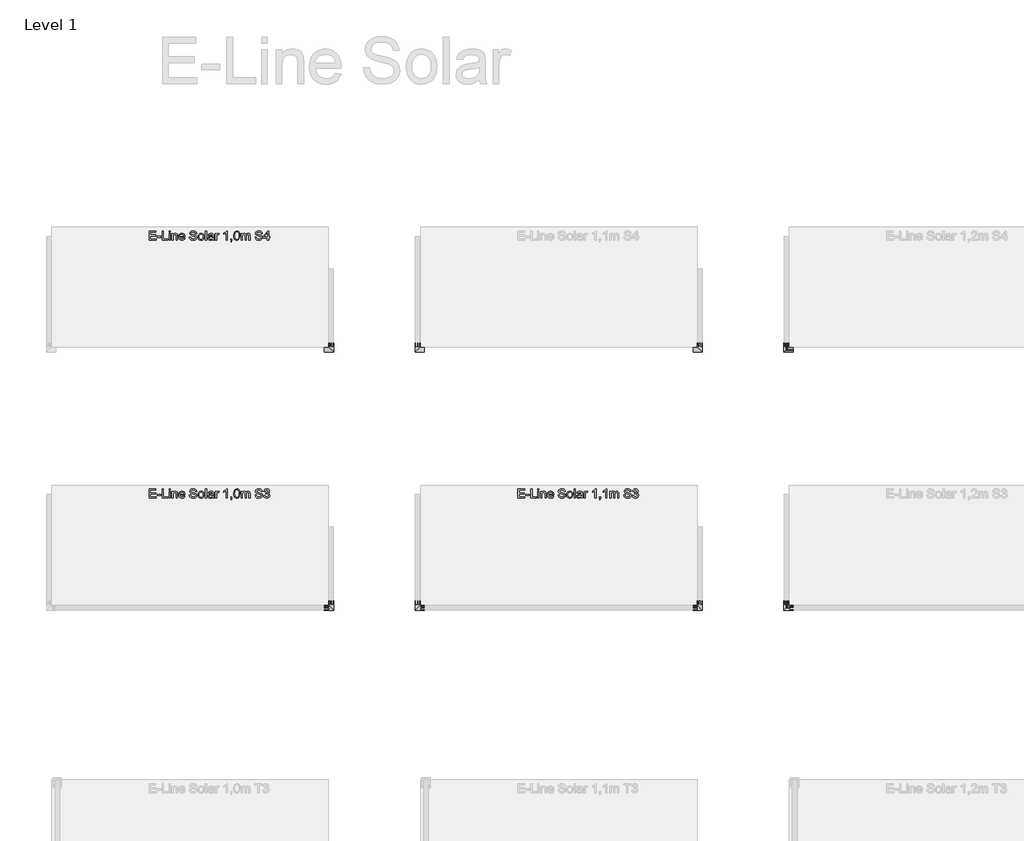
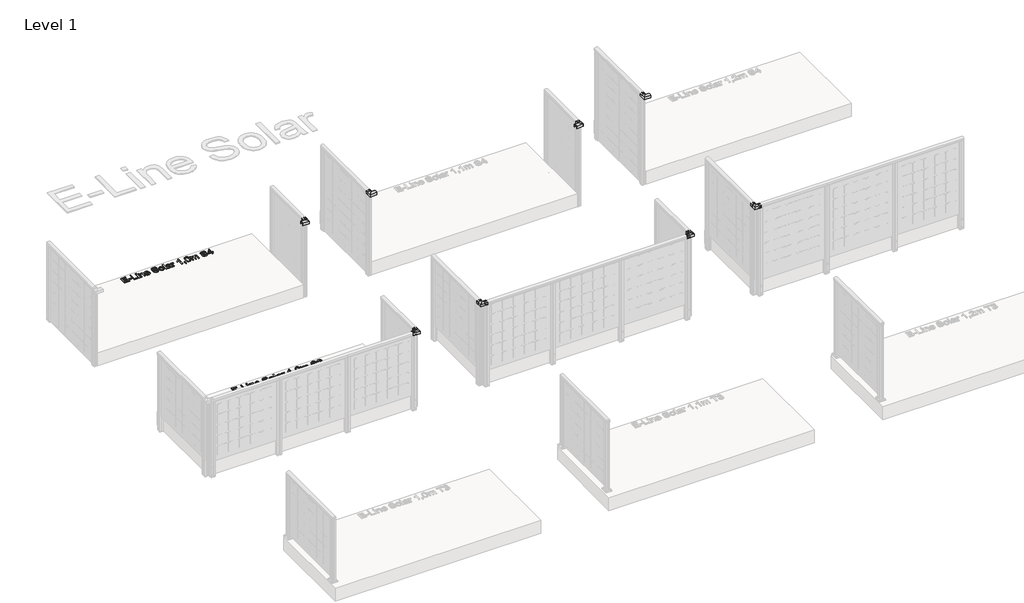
# One storey, part 63 of 66: 11 proxies.
"""IFC4 building model written with IfcOpenShell, lengths in millimetres."""

from ifc_helpers import new_model, si_unit, origin, origin_with_axes, place, context, project, spatial, polyline, outline, extrude, transform, mapped, element, save
from components import generic_models_029e0633, generic_models_b718ed85

model = new_model("IFC4")

# Units and contexts
model_context = context("Model", 3, world=origin())
ifc_project = project(units=[si_unit("LENGTHUNIT", "METRE", prefix="MILLI")], contexts=[model_context])

# Site, building, storey
site = spatial("IfcSite", under=ifc_project)
building = spatial("IfcBuilding", under=site)
storey = spatial("IfcBuildingStorey", under=building, Name="Level 1", Elevation=0.0)

# Proxies
placement = place(None, origin())
generic_models_shape = generic_models_029e0633(model_context)
element("IfcBuildingElementProxy", 1, Name="Innore top rail 51x43 corner element : Innore top rail 51x43 element", ObjectType="Innore top rail 51x43 corner element : Innore top rail 51x43 element", at=placement, inside=storey, context=model_context, shape_type="MappedRepresentation", body=[
    mapped(generic_models_shape, transform((19266.5256066, 2988.9093698, 1100.0), x_axis=(0.0, -1.0, 0.0), y_axis=(1.0, 0.0, 0.0), z_axis=(0.0, 0.0, 1.0))),
])
element("IfcBuildingElementProxy", 2, Name="Innore top rail 51x43 corner element : Innore top rail 51x43 element", ObjectType="Innore top rail 51x43 corner element : Innore top rail 51x43 element", at=placement, inside=storey, context=model_context, shape_type="MappedRepresentation", body=[
    mapped(generic_models_shape, transform((19266.5256066, 188.9093698, 1100.0), x_axis=(0.0, -1.0, 0.0), y_axis=(1.0, 0.0, 0.0), z_axis=(0.0, 0.0, 1.0))),
])
element("IfcBuildingElementProxy", 3, Name="Innore top rail 51x43 corner element : Innore top rail 51x43 element", ObjectType="Innore top rail 51x43 corner element : Innore top rail 51x43 element", at=placement, inside=storey, context=model_context, shape_type="MappedRepresentation", body=[
    mapped(generic_models_shape, transform((23266.5256066, 2988.9093698, 1200.0), x_axis=(0.0, -1.0, 0.0), y_axis=(1.0, 0.0, 0.0), z_axis=(0.0, 0.0, 1.0))),
])
element("IfcBuildingElementProxy", 4, Name="Innore top rail 51x43 corner element : Innore top rail 51x43 element", ObjectType="Innore top rail 51x43 corner element : Innore top rail 51x43 element", at=placement, inside=storey, context=model_context, shape_type="MappedRepresentation", body=[
    mapped(generic_models_shape, transform((23266.5256066, 188.9093698, 1200.0), x_axis=(0.0, -1.0, 0.0), y_axis=(1.0, 0.0, 0.0), z_axis=(0.0, 0.0, 1.0))),
])
generic_models_2_shape = generic_models_b718ed85(model_context)
element("IfcBuildingElementProxy", 5, Name="Innore top rail 51x43 corner element : Innore top rail 51x43 element", ObjectType="Innore top rail 51x43 corner element : Innore top rail 51x43 element", at=placement, inside=storey, context=model_context, shape_type="MappedRepresentation", body=[
    mapped(generic_models_2_shape, transform((18326.5270144, 2988.9093698, 1000.0), x_axis=(0.0, -1.0, 0.0), y_axis=(1.0, 0.0, 0.0), z_axis=(0.0, 0.0, 1.0))),
])
element("IfcBuildingElementProxy", 6, Name="Innore top rail 51x43 corner element : Innore top rail 51x43 element", ObjectType="Innore top rail 51x43 corner element : Innore top rail 51x43 element", at=placement, inside=storey, context=model_context, shape_type="MappedRepresentation", body=[
    mapped(generic_models_2_shape, transform((18326.5270144, 188.9093698, 1000.0), x_axis=(0.0, -1.0, 0.0), y_axis=(1.0, 0.0, 0.0), z_axis=(0.0, 0.0, 1.0))),
])
element("IfcBuildingElementProxy", 7, Name="Innore top rail 51x43 corner element : Innore top rail 51x43 element", ObjectType="Innore top rail 51x43 corner element : Innore top rail 51x43 element", at=placement, inside=storey, context=model_context, shape_type="MappedRepresentation", body=[
    mapped(generic_models_2_shape, transform((22326.5270144, 2988.9093698, 1100.0), x_axis=(0.0, -1.0, 0.0), y_axis=(1.0, 0.0, 0.0), z_axis=(0.0, 0.0, 1.0))),
])
element("IfcBuildingElementProxy", 8, Name="Innore top rail 51x43 corner element : Innore top rail 51x43 element", ObjectType="Innore top rail 51x43 corner element : Innore top rail 51x43 element", at=placement, inside=storey, context=model_context, shape_type="MappedRepresentation", body=[
    mapped(generic_models_2_shape, transform((22326.5270144, 188.9093698, 1100.0), x_axis=(0.0, -1.0, 0.0), y_axis=(1.0, 0.0, 0.0), z_axis=(0.0, 0.0, 1.0))),
])
element("IfcBuildingElementProxy", 9, Name="100mm Arial", ObjectType="100mm Arial", at=placement, inside=storey, context=model_context, shape_type="SweptSolid", body=[
    extrude(outline(polyline([(16354.036482, 1378.8815979), (16354.036482, 1479.3379081), (16426.2394549, 1479.3379081), (16426.2394549, 1466.7808693), (16366.5935207, 1466.7808693), (16366.5935207, 1436.9579022), (16423.1001952, 1436.9579022), (16423.1001952, 1424.4008635), (16366.5935207, 1424.4008635), (16366.5935207, 1391.4386367), (16427.8090847, 1391.4386367), (16427.8090847, 1378.8815979), (16354.036482, 1378.8815979)])), origin_with_axes(), (0.0, 0.0, 1.0), 10.0),
    extrude(outline(polyline([(16438.7964936, 1408.704565), (16438.7964936, 1421.2616038), (16478.0372398, 1421.2616038), (16478.0372398, 1408.704565), (16438.7964936, 1408.704565)])), origin_with_axes(), (0.0, 0.0, 1.0), 10.0),
    extrude(outline(polyline([(16493.7335383, 1378.8815979), (16493.7335383, 1479.3379081), (16506.290577, 1479.3379081), (16506.290577, 1391.4386367), (16556.5187321, 1391.4386367), (16556.5187321, 1378.8815979), (16493.7335383, 1378.8815979)])), origin_with_axes(), (0.0, 0.0, 1.0), 10.0),
    extrude(outline(polyline([(16569.0757709, 1466.7808693), (16569.0757709, 1479.3379081), (16581.6328096, 1479.3379081), (16581.6328096, 1466.7808693), (16569.0757709, 1466.7808693)])), origin_with_axes(), (0.0, 0.0, 1.0), 10.0),
    extrude(outline(polyline([(16569.0757709, 1378.8815979), (16569.0757709, 1452.6542007), (16581.6328096, 1452.6542007), (16581.6328096, 1378.8815979), (16569.0757709, 1378.8815979)])), origin_with_axes(), (0.0, 0.0, 1.0), 10.0),
    extrude(outline(polyline([(16600.4683678, 1378.8815979), (16600.4683678, 1452.6542007), (16613.0254066, 1452.6542007), (16613.0254066, 1442.3535048), (16622.6271266, 1451.2562491), (16635.7359884, 1454.2238305), (16647.5940514, 1451.8325976), (16655.6874553, 1445.5540782), (16659.4521144, 1436.3202401), (16660.1143019, 1424.1801343), (16660.1143019, 1378.8815979), (16647.5572632, 1378.8815979), (16647.5572632, 1422.4878771), (16646.1102607, 1433.5979133), (16640.9967009, 1439.4717625), (16632.3759995, 1441.6667918), (16618.752103, 1436.737173), (16614.4570807, 1429.594131), (16613.0254066, 1418.0242422), (16613.0254066, 1378.8815979), (16600.4683678, 1378.8815979)])), origin_with_axes(), (0.0, 0.0, 1.0), 10.0),
    extrude(outline(polyline([(16729.0308624, 1400.8564158), (16741.3426465, 1399.2867859), (16736.9066028, 1390.0100283), (16729.82794, 1383.0754527), (16720.2660738, 1378.7528392), (16708.3804197, 1377.3119681), (16693.6467458, 1379.7982372), (16682.309849, 1387.2570447), (16675.0809678, 1399.2040125), (16672.6713407, 1415.1547626), (16675.1054932, 1431.6420074), (16682.4079508, 1443.9721856), (16693.5915635, 1451.6609193), (16707.6691812, 1454.2238305), (16721.3084062, 1451.6670507), (16732.2069103, 1443.9967111), (16739.353018, 1431.6910583), (16741.7350539, 1415.228339), (16741.6614775, 1411.8438247), (16685.2283795, 1411.8438247), (16687.4019489, 1402.4444397), (16692.4511293, 1395.5343896), (16699.7382585, 1391.2853525), (16708.6256744, 1389.8690068), (16720.9374585, 1392.4932317), (16729.0308624, 1400.8564158)]), holes=[polyline([(16685.2283795, 1424.4008635), (16729.1780152, 1424.4008635), (16724.1502946, 1435.7806798), (16716.8294429, 1440.1952638), (16707.6201303, 1441.6667918), (16692.1568237, 1436.970165), (16687.2915843, 1431.4795262), (16685.2283795, 1424.4008635)])]), origin_with_axes(), (0.0, 0.0, 1.0), 10.0),
    extrude(outline(polyline([(16790.3935792, 1413.4134545), (16802.9506179, 1413.4134545), (16806.9973199, 1400.844153), (16816.8810828, 1392.8979019), (16831.9397192, 1389.8690068), (16845.0608437, 1392.1621379), (16853.5343923, 1398.4651828), (16856.3180327, 1406.8896805), (16854.2333681, 1414.725567), (16845.6985058, 1420.4277379), (16827.4147706, 1425.2224666), (16807.7330839, 1431.4151468), (16797.0522433, 1440.7593495), (16793.5328389, 1453.2428119), (16797.8861091, 1467.4553196), (16810.6025634, 1477.4862354), (16829.2173924, 1480.9075379), (16849.0830201, 1477.3268198), (16862.326772, 1466.8053948), (16867.3054416, 1451.0845708), (16854.7484029, 1451.0845708), (16852.443009, 1458.5771008), (16847.6360176, 1463.9849661), (16829.7079017, 1468.3504991), (16811.7307349, 1464.0340171), (16806.0898776, 1453.6106939), (16810.0875286, 1444.9041533), (16830.5908185, 1437.8898699), (16852.810891, 1431.5868251), (16864.9632596, 1421.4087566), (16868.8750715, 1407.2085115), (16864.3746484, 1392.1866634), (16851.4252022, 1381.22378), (16832.4302285, 1377.3119681), (16810.0016895, 1381.5303483), (16795.8137072, 1394.2345399), (16790.3935792, 1413.4134545)])), origin_with_axes(), (0.0, 0.0, 1.0), 10.0),
    extrude(outline(polyline([(16883.0017401, 1415.7678993), (16885.7179355, 1433.5549938), (16893.8665217, 1446.0568502), (16903.9342256, 1452.1820855), (16915.9884923, 1454.2238305), (16929.1801275, 1451.7375614), (16939.716881, 1444.2787539), (16946.6238655, 1432.4360194), (16948.9261936, 1416.7979689), (16944.8549662, 1394.455269), (16932.9969032, 1381.8123911), (16915.9884923, 1377.3119681), (16902.6374416, 1379.7890402), (16892.1129508, 1387.2202565), (16885.2795428, 1399.3113114), (16883.0017401, 1415.7678993)]), holes=[polyline([(16895.5587789, 1415.7924248), (16897.0119127, 1404.4279368), (16901.3713144, 1396.3314672), (16907.9318766, 1391.4846219), (16915.9884923, 1389.8690068), (16924.0083198, 1391.493819), (16930.5566193, 1396.3682554), (16934.916021, 1404.5720239), (16936.3691549, 1416.1848322), (16934.9068239, 1427.2182264), (16930.5198311, 1435.2043314), (16923.9623346, 1440.0511767), (16915.9884923, 1441.6667918), (16907.9318766, 1440.057308), (16901.3713144, 1435.2288568), (16897.0119127, 1427.1507814), (16895.5587789, 1415.7924248)])]), origin_with_axes(), (0.0, 0.0, 1.0), 10.0),
    extrude(outline(polyline([(16963.0528622, 1378.8815979), (16963.0528622, 1479.3379081), (16975.609901, 1479.3379081), (16975.609901, 1378.8815979), (16963.0528622, 1378.8815979)])), origin_with_axes(), (0.0, 0.0, 1.0), 10.0),
    extrude(outline(polyline([(17041.5343545, 1388.299377), (17029.3574605, 1379.7890402), (17015.9052422, 1377.3119681), (17005.4114083, 1378.8018902), (16997.670558, 1383.2716564), (16992.8972891, 1390.0590792), (16991.3061995, 1398.501971), (16993.7096952, 1408.4347849), (17000.0250028, 1415.645272), (17008.8173824, 1419.7655503), (17019.682164, 1421.6540112), (17041.4607781, 1425.9704933), (17041.5343545, 1428.7663965), (17038.0762638, 1438.0370227), (17024.1948498, 1441.6667918), (17011.4906583, 1439.2510333), (17005.4328681, 1430.6793828), (16992.8758293, 1432.2490127), (16998.3082201, 1444.5117459), (17009.2465781, 1451.6977075), (17025.8135306, 1454.2238305), (17041.0315825, 1451.9920131), (17049.6277584, 1446.387944), (17053.4782567, 1437.8653445), (17054.0913933, 1426.8779356), (17054.0913933, 1411.2552135), (17054.7290554, 1389.4398112), (17057.230653, 1378.8815979), (17044.6736142, 1378.8815979), (17041.5343545, 1388.299377)]), holes=[polyline([(17041.5343545, 1413.4134545), (17021.2763193, 1409.5629563), (17010.4728514, 1407.5273426), (17005.5800209, 1404.2164047), (17003.8632382, 1399.3848878), (17007.6033719, 1392.5913336), (17018.578518, 1389.8690068), (17031.2827096, 1392.8733765), (17039.4742154, 1400.1451772), (17041.4607781, 1409.8572619), (17041.5343545, 1413.4134545)])]), origin_with_axes(), (0.0, 0.0, 1.0), 10.0),
    extrude(outline(polyline([(17071.3573216, 1378.8815979), (17071.3573216, 1452.6542007), (17082.3447305, 1452.6542007), (17082.3447305, 1441.7403682), (17090.1438288, 1451.7958094), (17097.9919781, 1454.2238305), (17110.5980678, 1450.3488068), (17106.404213, 1439.0916178), (17097.5750451, 1441.6667918), (17090.4749226, 1439.1897197), (17085.9499741, 1432.3225891), (17083.9143604, 1417.6563602), (17083.9143604, 1378.8815979), (17071.3573216, 1378.8815979)])), origin_with_axes(), (0.0, 0.0, 1.0), 10.0),
    extrude(outline(polyline([(17201.6365988, 1378.8815979), (17189.0795601, 1378.8815979), (17189.0795601, 1457.1668865), (17177.1847089, 1448.6933379), (17163.9654825, 1442.3535048), (17163.9654825, 1454.2238305), (17182.371845, 1465.9715289), (17193.5431949, 1479.3379081), (17201.6365988, 1479.3379081), (17201.6365988, 1378.8815979)])), origin_with_axes(), (0.0, 0.0, 1.0), 10.0),
    extrude(outline(polyline([(17237.7380853, 1378.8815979), (17237.7380853, 1391.4386367), (17250.2951241, 1391.4386367), (17250.2951241, 1378.8815979), (17248.0387812, 1366.0425163), (17240.877345, 1358.4764099), (17237.7380853, 1363.1852995), (17242.348873, 1368.6054275), (17243.9920792, 1378.8815979), (17237.7380853, 1378.8815979)])), origin_with_axes(), (0.0, 0.0, 1.0), 10.0),
    extrude(outline(polyline([(17270.7003121, 1428.3004126), (17274.3913948, 1457.2036747), (17285.3542782, 1473.8687291), (17303.6625388, 1479.3379081), (17318.3287677, 1476.1005465), (17328.4577853, 1466.7686066), (17334.3438972, 1451.906174), (17336.6247656, 1428.3004126), (17332.9704711, 1399.5197778), (17322.0443759, 1382.8179353), (17313.8130162, 1378.6884599), (17303.6625388, 1377.3119681), (17290.6149907, 1379.703201), (17280.7067023, 1386.8768999), (17273.2019096, 1403.8669168), (17270.7003121, 1428.3004126)]), holes=[polyline([(17283.2573508, 1428.3249381), (17284.7288788, 1408.5727406), (17289.1434628, 1397.1408076), (17295.7162877, 1391.686957), (17303.6625388, 1389.8690068), (17311.6087899, 1391.6930884), (17318.1816149, 1397.1653331), (17322.5961989, 1408.6033974), (17324.0677268, 1428.3249381), (17322.6452498, 1447.6326115), (17318.3778186, 1459.1534493), (17311.8172564, 1464.8740143), (17303.515386, 1466.7808693), (17295.6549741, 1465.1008749), (17289.3396665, 1460.0608915), (17284.7779298, 1447.8226838), (17283.2573508, 1428.3249381)])]), origin_with_axes(), (0.0, 0.0, 1.0), 10.0),
    extrude(outline(polyline([(17350.7514342, 1378.8815979), (17350.7514342, 1452.6542007), (17363.308473, 1452.6542007), (17363.308473, 1440.5140948), (17371.9414371, 1450.4591714), (17384.2286958, 1454.2238305), (17396.81026, 1450.385595), (17403.7264415, 1439.6311781), (17413.5243653, 1450.5756674), (17425.8974631, 1454.2238305), (17435.336702, 1452.7063173), (17442.3172628, 1448.1537776), (17446.6306792, 1440.4435841), (17448.0684847, 1429.4531095), (17448.0684847, 1378.8815979), (17435.5114459, 1378.8815979), (17435.5114459, 1424.0575069), (17434.3464863, 1434.5421438), (17430.128106, 1439.7047545), (17422.9544071, 1441.6667918), (17410.6058348, 1436.6390712), (17406.9178178, 1430.096903), (17405.6884788, 1420.5258398), (17405.6884788, 1378.8815979), (17393.1314401, 1378.8815979), (17393.1314401, 1425.4554585), (17390.2251723, 1437.6200898), (17380.6970286, 1441.6667918), (17371.4018769, 1438.9689905), (17365.2214594, 1431.0717903), (17363.308473, 1416.0867304), (17363.308473, 1378.8815979), (17350.7514342, 1378.8815979)])), origin_with_axes(), (0.0, 0.0, 1.0), 10.0),
    extrude(outline(polyline([(17503.0055293, 1413.4134545), (17515.5625681, 1413.4134545), (17519.60927, 1400.844153), (17529.4930329, 1392.8979019), (17544.5516693, 1389.8690068), (17557.6727938, 1392.1621379), (17566.1463424, 1398.4651828), (17568.9299828, 1406.8896805), (17566.8453182, 1414.725567), (17558.3104559, 1420.4277379), (17540.0267207, 1425.2224666), (17520.345034, 1431.4151468), (17509.6641934, 1440.7593495), (17506.144789, 1453.2428119), (17510.4980593, 1467.4553196), (17523.2145136, 1477.4862354), (17541.8293425, 1480.9075379), (17561.6949703, 1477.3268198), (17574.9387221, 1466.8053948), (17579.9173917, 1451.0845708), (17567.360353, 1451.0845708), (17565.0549591, 1458.5771008), (17560.2479677, 1463.9849661), (17542.3198518, 1468.3504991), (17524.342685, 1464.0340171), (17518.7018278, 1453.6106939), (17522.6994788, 1444.9041533), (17543.2027686, 1437.8898699), (17565.4228411, 1431.5868251), (17577.5752097, 1421.4087566), (17581.4870216, 1407.2085115), (17576.9865985, 1392.1866634), (17564.0371523, 1381.22378), (17545.0421786, 1377.3119681), (17522.6136396, 1381.5303483), (17508.4256574, 1394.2345399), (17503.0055293, 1413.4134545)])), origin_with_axes(), (0.0, 0.0, 1.0), 10.0),
    extrude(outline(polyline([(17595.6136902, 1405.5653053), (17608.170729, 1407.1349351), (17615.0991732, 1393.9157088), (17628.0608822, 1389.8690068), (17636.6693209, 1391.2608271), (17643.3157223, 1395.4362877), (17648.981105, 1409.2195998), (17643.3647732, 1422.2058342), (17629.0909518, 1427.3439194), (17620.2863094, 1425.9704933), (17621.6842609, 1438.5275321), (17623.6953492, 1438.3803793), (17637.9446451, 1441.9856228), (17642.6903229, 1446.5596223), (17644.2722154, 1453.0711336), (17639.6859532, 1462.8935829), (17627.8646785, 1466.7808693), (17615.8962509, 1462.8567947), (17609.7403588, 1451.0845708), (17597.1833201, 1452.6542007), (17600.8805341, 1463.9297838), (17607.4594905, 1472.3481502), (17616.4603366, 1477.5904686), (17627.4232201, 1479.3379081), (17642.5676955, 1475.89208), (17653.162697, 1466.474301), (17656.8292542, 1453.8068976), (17653.346638, 1442.2308775), (17643.0459421, 1433.9167444), (17656.7311523, 1425.3328312), (17661.5381437, 1408.9988706), (17659.134648, 1396.7606629), (17651.9241609, 1386.5335434), (17641.0409852, 1379.6173619), (17627.6194238, 1377.3119681), (17615.4793179, 1379.2801367), (17605.595555, 1385.1846428), (17598.7222931, 1394.2161458), (17595.6136902, 1405.5653053)])), origin_with_axes(), (0.0, 0.0, 1.0), 10.0),
])
element("IfcBuildingElementProxy", 10, Name="100mm Arial", ObjectType="100mm Arial", at=placement, inside=storey, context=model_context, shape_type="SweptSolid", body=[
    extrude(outline(polyline([(16354.036482, 4178.8815979), (16354.036482, 4279.3379081), (16426.2394549, 4279.3379081), (16426.2394549, 4266.7808693), (16366.5935207, 4266.7808693), (16366.5935207, 4236.9579022), (16423.1001952, 4236.9579022), (16423.1001952, 4224.4008635), (16366.5935207, 4224.4008635), (16366.5935207, 4191.4386367), (16427.8090847, 4191.4386367), (16427.8090847, 4178.8815979), (16354.036482, 4178.8815979)])), origin_with_axes(), (0.0, 0.0, 1.0), 10.0),
    extrude(outline(polyline([(16438.7964936, 4208.704565), (16438.7964936, 4221.2616038), (16478.0372398, 4221.2616038), (16478.0372398, 4208.704565), (16438.7964936, 4208.704565)])), origin_with_axes(), (0.0, 0.0, 1.0), 10.0),
    extrude(outline(polyline([(16493.7335383, 4178.8815979), (16493.7335383, 4279.3379081), (16506.290577, 4279.3379081), (16506.290577, 4191.4386367), (16556.5187321, 4191.4386367), (16556.5187321, 4178.8815979), (16493.7335383, 4178.8815979)])), origin_with_axes(), (0.0, 0.0, 1.0), 10.0),
    extrude(outline(polyline([(16569.0757709, 4266.7808693), (16569.0757709, 4279.3379081), (16581.6328096, 4279.3379081), (16581.6328096, 4266.7808693), (16569.0757709, 4266.7808693)])), origin_with_axes(), (0.0, 0.0, 1.0), 10.0),
    extrude(outline(polyline([(16569.0757709, 4178.8815979), (16569.0757709, 4252.6542007), (16581.6328096, 4252.6542007), (16581.6328096, 4178.8815979), (16569.0757709, 4178.8815979)])), origin_with_axes(), (0.0, 0.0, 1.0), 10.0),
    extrude(outline(polyline([(16600.4683678, 4178.8815979), (16600.4683678, 4252.6542007), (16613.0254066, 4252.6542007), (16613.0254066, 4242.3535048), (16622.6271266, 4251.2562491), (16635.7359884, 4254.2238305), (16647.5940514, 4251.8325976), (16655.6874553, 4245.5540782), (16659.4521144, 4236.3202401), (16660.1143019, 4224.1801343), (16660.1143019, 4178.8815979), (16647.5572632, 4178.8815979), (16647.5572632, 4222.4878771), (16646.1102607, 4233.5979133), (16640.9967009, 4239.4717625), (16632.3759995, 4241.6667918), (16618.752103, 4236.737173), (16614.4570807, 4229.594131), (16613.0254066, 4218.0242422), (16613.0254066, 4178.8815979), (16600.4683678, 4178.8815979)])), origin_with_axes(), (0.0, 0.0, 1.0), 10.0),
    extrude(outline(polyline([(16729.0308624, 4200.8564158), (16741.3426465, 4199.2867859), (16736.9066028, 4190.0100283), (16729.82794, 4183.0754527), (16720.2660738, 4178.7528392), (16708.3804197, 4177.3119681), (16693.6467458, 4179.7982372), (16682.309849, 4187.2570447), (16675.0809678, 4199.2040125), (16672.6713407, 4215.1547626), (16675.1054932, 4231.6420074), (16682.4079508, 4243.9721856), (16693.5915635, 4251.6609193), (16707.6691812, 4254.2238305), (16721.3084062, 4251.6670507), (16732.2069103, 4243.9967111), (16739.353018, 4231.6910583), (16741.7350539, 4215.228339), (16741.6614775, 4211.8438247), (16685.2283795, 4211.8438247), (16687.4019489, 4202.4444397), (16692.4511293, 4195.5343896), (16699.7382585, 4191.2853525), (16708.6256744, 4189.8690068), (16720.9374585, 4192.4932317), (16729.0308624, 4200.8564158)]), holes=[polyline([(16685.2283795, 4224.4008635), (16729.1780152, 4224.4008635), (16724.1502946, 4235.7806798), (16716.8294429, 4240.1952638), (16707.6201303, 4241.6667918), (16692.1568237, 4236.970165), (16687.2915843, 4231.4795262), (16685.2283795, 4224.4008635)])]), origin_with_axes(), (0.0, 0.0, 1.0), 10.0),
    extrude(outline(polyline([(16790.3935792, 4213.4134545), (16802.9506179, 4213.4134545), (16806.9973199, 4200.844153), (16816.8810828, 4192.8979019), (16831.9397192, 4189.8690068), (16845.0608437, 4192.1621379), (16853.5343923, 4198.4651828), (16856.3180327, 4206.8896805), (16854.2333681, 4214.725567), (16845.6985058, 4220.4277379), (16827.4147706, 4225.2224666), (16807.7330839, 4231.4151468), (16797.0522433, 4240.7593495), (16793.5328389, 4253.2428119), (16797.8861091, 4267.4553196), (16810.6025634, 4277.4862354), (16829.2173924, 4280.9075379), (16849.0830201, 4277.3268198), (16862.326772, 4266.8053948), (16867.3054416, 4251.0845708), (16854.7484029, 4251.0845708), (16852.443009, 4258.5771008), (16847.6360176, 4263.9849661), (16829.7079017, 4268.3504991), (16811.7307349, 4264.0340171), (16806.0898776, 4253.6106939), (16810.0875286, 4244.9041533), (16830.5908185, 4237.8898699), (16852.810891, 4231.5868251), (16864.9632596, 4221.4087566), (16868.8750715, 4207.2085115), (16864.3746484, 4192.1866634), (16851.4252022, 4181.22378), (16832.4302285, 4177.3119681), (16810.0016895, 4181.5303483), (16795.8137072, 4194.2345399), (16790.3935792, 4213.4134545)])), origin_with_axes(), (0.0, 0.0, 1.0), 10.0),
    extrude(outline(polyline([(16883.0017401, 4215.7678993), (16885.7179355, 4233.5549938), (16893.8665217, 4246.0568502), (16903.9342256, 4252.1820855), (16915.9884923, 4254.2238305), (16929.1801275, 4251.7375614), (16939.716881, 4244.2787539), (16946.6238655, 4232.4360194), (16948.9261936, 4216.7979689), (16944.8549662, 4194.455269), (16932.9969032, 4181.8123911), (16915.9884923, 4177.3119681), (16902.6374416, 4179.7890402), (16892.1129508, 4187.2202565), (16885.2795428, 4199.3113114), (16883.0017401, 4215.7678993)]), holes=[polyline([(16895.5587789, 4215.7924248), (16897.0119127, 4204.4279368), (16901.3713144, 4196.3314672), (16907.9318766, 4191.4846219), (16915.9884923, 4189.8690068), (16924.0083198, 4191.493819), (16930.5566193, 4196.3682554), (16934.916021, 4204.5720239), (16936.3691549, 4216.1848322), (16934.9068239, 4227.2182264), (16930.5198311, 4235.2043314), (16923.9623346, 4240.0511767), (16915.9884923, 4241.6667918), (16907.9318766, 4240.057308), (16901.3713144, 4235.2288568), (16897.0119127, 4227.1507814), (16895.5587789, 4215.7924248)])]), origin_with_axes(), (0.0, 0.0, 1.0), 10.0),
    extrude(outline(polyline([(16963.0528622, 4178.8815979), (16963.0528622, 4279.3379081), (16975.609901, 4279.3379081), (16975.609901, 4178.8815979), (16963.0528622, 4178.8815979)])), origin_with_axes(), (0.0, 0.0, 1.0), 10.0),
    extrude(outline(polyline([(17041.5343545, 4188.299377), (17029.3574605, 4179.7890402), (17015.9052422, 4177.3119681), (17005.4114083, 4178.8018902), (16997.670558, 4183.2716564), (16992.8972891, 4190.0590792), (16991.3061995, 4198.501971), (16993.7096952, 4208.4347849), (17000.0250028, 4215.645272), (17008.8173824, 4219.7655503), (17019.682164, 4221.6540112), (17041.4607781, 4225.9704933), (17041.5343545, 4228.7663965), (17038.0762638, 4238.0370227), (17024.1948498, 4241.6667918), (17011.4906583, 4239.2510333), (17005.4328681, 4230.6793828), (16992.8758293, 4232.2490127), (16998.3082201, 4244.5117459), (17009.2465781, 4251.6977075), (17025.8135306, 4254.2238305), (17041.0315825, 4251.9920131), (17049.6277584, 4246.387944), (17053.4782567, 4237.8653445), (17054.0913933, 4226.8779356), (17054.0913933, 4211.2552135), (17054.7290554, 4189.4398112), (17057.230653, 4178.8815979), (17044.6736142, 4178.8815979), (17041.5343545, 4188.299377)]), holes=[polyline([(17041.5343545, 4213.4134545), (17021.2763193, 4209.5629563), (17010.4728514, 4207.5273426), (17005.5800209, 4204.2164047), (17003.8632382, 4199.3848878), (17007.6033719, 4192.5913336), (17018.578518, 4189.8690068), (17031.2827096, 4192.8733765), (17039.4742154, 4200.1451772), (17041.4607781, 4209.8572619), (17041.5343545, 4213.4134545)])]), origin_with_axes(), (0.0, 0.0, 1.0), 10.0),
    extrude(outline(polyline([(17071.3573216, 4178.8815979), (17071.3573216, 4252.6542007), (17082.3447305, 4252.6542007), (17082.3447305, 4241.7403682), (17090.1438288, 4251.7958094), (17097.9919781, 4254.2238305), (17110.5980678, 4250.3488068), (17106.404213, 4239.0916178), (17097.5750451, 4241.6667918), (17090.4749226, 4239.1897197), (17085.9499741, 4232.3225891), (17083.9143604, 4217.6563602), (17083.9143604, 4178.8815979), (17071.3573216, 4178.8815979)])), origin_with_axes(), (0.0, 0.0, 1.0), 10.0),
    extrude(outline(polyline([(17201.6365988, 4178.8815979), (17189.0795601, 4178.8815979), (17189.0795601, 4257.1668865), (17177.1847089, 4248.6933379), (17163.9654825, 4242.3535048), (17163.9654825, 4254.2238305), (17182.371845, 4265.9715289), (17193.5431949, 4279.3379081), (17201.6365988, 4279.3379081), (17201.6365988, 4178.8815979)])), origin_with_axes(), (0.0, 0.0, 1.0), 10.0),
    extrude(outline(polyline([(17237.7380853, 4178.8815979), (17237.7380853, 4191.4386367), (17250.2951241, 4191.4386367), (17250.2951241, 4178.8815979), (17248.0387812, 4166.0425163), (17240.877345, 4158.4764099), (17237.7380853, 4163.1852995), (17242.348873, 4168.6054275), (17243.9920792, 4178.8815979), (17237.7380853, 4178.8815979)])), origin_with_axes(), (0.0, 0.0, 1.0), 10.0),
    extrude(outline(polyline([(17270.7003121, 4228.3004126), (17274.3913948, 4257.2036747), (17285.3542782, 4273.8687291), (17303.6625388, 4279.3379081), (17318.3287677, 4276.1005465), (17328.4577853, 4266.7686066), (17334.3438972, 4251.906174), (17336.6247656, 4228.3004126), (17332.9704711, 4199.5197778), (17322.0443759, 4182.8179353), (17313.8130162, 4178.6884599), (17303.6625388, 4177.3119681), (17290.6149907, 4179.703201), (17280.7067023, 4186.8768999), (17273.2019096, 4203.8669168), (17270.7003121, 4228.3004126)]), holes=[polyline([(17283.2573508, 4228.3249381), (17284.7288788, 4208.5727406), (17289.1434628, 4197.1408076), (17295.7162877, 4191.686957), (17303.6625388, 4189.8690068), (17311.6087899, 4191.6930884), (17318.1816149, 4197.1653331), (17322.5961989, 4208.6033974), (17324.0677268, 4228.3249381), (17322.6452498, 4247.6326115), (17318.3778186, 4259.1534493), (17311.8172564, 4264.8740143), (17303.515386, 4266.7808693), (17295.6549741, 4265.1008749), (17289.3396665, 4260.0608915), (17284.7779298, 4247.8226838), (17283.2573508, 4228.3249381)])]), origin_with_axes(), (0.0, 0.0, 1.0), 10.0),
    extrude(outline(polyline([(17350.7514342, 4178.8815979), (17350.7514342, 4252.6542007), (17363.308473, 4252.6542007), (17363.308473, 4240.5140948), (17371.9414371, 4250.4591714), (17384.2286958, 4254.2238305), (17396.81026, 4250.385595), (17403.7264415, 4239.6311781), (17413.5243653, 4250.5756674), (17425.8974631, 4254.2238305), (17435.336702, 4252.7063173), (17442.3172628, 4248.1537776), (17446.6306792, 4240.4435841), (17448.0684847, 4229.4531095), (17448.0684847, 4178.8815979), (17435.5114459, 4178.8815979), (17435.5114459, 4224.0575069), (17434.3464863, 4234.5421438), (17430.128106, 4239.7047545), (17422.9544071, 4241.6667918), (17410.6058348, 4236.6390712), (17406.9178178, 4230.096903), (17405.6884788, 4220.5258398), (17405.6884788, 4178.8815979), (17393.1314401, 4178.8815979), (17393.1314401, 4225.4554585), (17390.2251723, 4237.6200898), (17380.6970286, 4241.6667918), (17371.4018769, 4238.9689905), (17365.2214594, 4231.0717903), (17363.308473, 4216.0867304), (17363.308473, 4178.8815979), (17350.7514342, 4178.8815979)])), origin_with_axes(), (0.0, 0.0, 1.0), 10.0),
    extrude(outline(polyline([(17503.0055293, 4213.4134545), (17515.5625681, 4213.4134545), (17519.60927, 4200.844153), (17529.4930329, 4192.8979019), (17544.5516693, 4189.8690068), (17557.6727938, 4192.1621379), (17566.1463424, 4198.4651828), (17568.9299828, 4206.8896805), (17566.8453182, 4214.725567), (17558.3104559, 4220.4277379), (17540.0267207, 4225.2224666), (17520.345034, 4231.4151468), (17509.6641934, 4240.7593495), (17506.144789, 4253.2428119), (17510.4980593, 4267.4553196), (17523.2145136, 4277.4862354), (17541.8293425, 4280.9075379), (17561.6949703, 4277.3268198), (17574.9387221, 4266.8053948), (17579.9173917, 4251.0845708), (17567.360353, 4251.0845708), (17565.0549591, 4258.5771008), (17560.2479677, 4263.9849661), (17542.3198518, 4268.3504991), (17524.342685, 4264.0340171), (17518.7018278, 4253.6106939), (17522.6994788, 4244.9041533), (17543.2027686, 4237.8898699), (17565.4228411, 4231.5868251), (17577.5752097, 4221.4087566), (17581.4870216, 4207.2085115), (17576.9865985, 4192.1866634), (17564.0371523, 4181.22378), (17545.0421786, 4177.3119681), (17522.6136396, 4181.5303483), (17508.4256574, 4194.2345399), (17503.0055293, 4213.4134545)])), origin_with_axes(), (0.0, 0.0, 1.0), 10.0),
    extrude(outline(polyline([(17636.4240662, 4178.8815979), (17636.4240662, 4202.4260456), (17590.9048007, 4202.4260456), (17590.9048007, 4214.9830844), (17639.5633259, 4277.7682782), (17648.981105, 4277.7682782), (17648.981105, 4214.9830844), (17661.5381437, 4214.9830844), (17661.5381437, 4202.4260456), (17648.981105, 4202.4260456), (17648.981105, 4178.8815979), (17636.4240662, 4178.8815979)]), holes=[polyline([(17636.4240662, 4214.9830844), (17636.4240662, 4253.7823721), (17606.3558445, 4214.9830844), (17636.4240662, 4214.9830844)])]), origin_with_axes(), (0.0, 0.0, 1.0), 10.0),
])
element("IfcBuildingElementProxy", 11, Name="100mm Arial", ObjectType="100mm Arial", at=placement, inside=storey, context=model_context, shape_type="SweptSolid", body=[
    extrude(outline(polyline([(20354.036482, 1378.8815979), (20354.036482, 1479.3379081), (20426.2394549, 1479.3379081), (20426.2394549, 1466.7808693), (20366.5935207, 1466.7808693), (20366.5935207, 1436.9579022), (20423.1001952, 1436.9579022), (20423.1001952, 1424.4008635), (20366.5935207, 1424.4008635), (20366.5935207, 1391.4386367), (20427.8090847, 1391.4386367), (20427.8090847, 1378.8815979), (20354.036482, 1378.8815979)])), origin_with_axes(), (0.0, 0.0, 1.0), 10.0),
    extrude(outline(polyline([(20438.7964936, 1408.704565), (20438.7964936, 1421.2616038), (20478.0372398, 1421.2616038), (20478.0372398, 1408.704565), (20438.7964936, 1408.704565)])), origin_with_axes(), (0.0, 0.0, 1.0), 10.0),
    extrude(outline(polyline([(20493.7335383, 1378.8815979), (20493.7335383, 1479.3379081), (20506.290577, 1479.3379081), (20506.290577, 1391.4386367), (20556.5187321, 1391.4386367), (20556.5187321, 1378.8815979), (20493.7335383, 1378.8815979)])), origin_with_axes(), (0.0, 0.0, 1.0), 10.0),
    extrude(outline(polyline([(20569.0757709, 1466.7808693), (20569.0757709, 1479.3379081), (20581.6328096, 1479.3379081), (20581.6328096, 1466.7808693), (20569.0757709, 1466.7808693)])), origin_with_axes(), (0.0, 0.0, 1.0), 10.0),
    extrude(outline(polyline([(20569.0757709, 1378.8815979), (20569.0757709, 1452.6542007), (20581.6328096, 1452.6542007), (20581.6328096, 1378.8815979), (20569.0757709, 1378.8815979)])), origin_with_axes(), (0.0, 0.0, 1.0), 10.0),
    extrude(outline(polyline([(20600.4683678, 1378.8815979), (20600.4683678, 1452.6542007), (20613.0254066, 1452.6542007), (20613.0254066, 1442.3535048), (20622.6271266, 1451.2562491), (20635.7359884, 1454.2238305), (20647.5940514, 1451.8325976), (20655.6874553, 1445.5540782), (20659.4521144, 1436.3202401), (20660.1143019, 1424.1801343), (20660.1143019, 1378.8815979), (20647.5572632, 1378.8815979), (20647.5572632, 1422.4878771), (20646.1102607, 1433.5979133), (20640.9967009, 1439.4717625), (20632.3759995, 1441.6667918), (20618.752103, 1436.737173), (20614.4570807, 1429.594131), (20613.0254066, 1418.0242422), (20613.0254066, 1378.8815979), (20600.4683678, 1378.8815979)])), origin_with_axes(), (0.0, 0.0, 1.0), 10.0),
    extrude(outline(polyline([(20729.0308624, 1400.8564158), (20741.3426465, 1399.2867859), (20736.9066028, 1390.0100283), (20729.82794, 1383.0754527), (20720.2660738, 1378.7528392), (20708.3804197, 1377.3119681), (20693.6467458, 1379.7982372), (20682.309849, 1387.2570447), (20675.0809678, 1399.2040125), (20672.6713407, 1415.1547626), (20675.1054932, 1431.6420074), (20682.4079508, 1443.9721856), (20693.5915635, 1451.6609193), (20707.6691812, 1454.2238305), (20721.3084062, 1451.6670507), (20732.2069103, 1443.9967111), (20739.353018, 1431.6910583), (20741.7350539, 1415.228339), (20741.6614775, 1411.8438247), (20685.2283795, 1411.8438247), (20687.4019489, 1402.4444397), (20692.4511293, 1395.5343896), (20699.7382585, 1391.2853525), (20708.6256744, 1389.8690068), (20720.9374585, 1392.4932317), (20729.0308624, 1400.8564158)]), holes=[polyline([(20685.2283795, 1424.4008635), (20729.1780152, 1424.4008635), (20724.1502946, 1435.7806798), (20716.8294429, 1440.1952638), (20707.6201303, 1441.6667918), (20692.1568237, 1436.970165), (20687.2915843, 1431.4795262), (20685.2283795, 1424.4008635)])]), origin_with_axes(), (0.0, 0.0, 1.0), 10.0),
    extrude(outline(polyline([(20790.3935792, 1413.4134545), (20802.9506179, 1413.4134545), (20806.9973199, 1400.844153), (20816.8810828, 1392.8979019), (20831.9397192, 1389.8690068), (20845.0608437, 1392.1621379), (20853.5343923, 1398.4651828), (20856.3180327, 1406.8896805), (20854.2333681, 1414.725567), (20845.6985058, 1420.4277379), (20827.4147706, 1425.2224666), (20807.7330839, 1431.4151468), (20797.0522433, 1440.7593495), (20793.5328389, 1453.2428119), (20797.8861091, 1467.4553196), (20810.6025634, 1477.4862354), (20829.2173924, 1480.9075379), (20849.0830201, 1477.3268198), (20862.326772, 1466.8053948), (20867.3054416, 1451.0845708), (20854.7484029, 1451.0845708), (20852.443009, 1458.5771008), (20847.6360176, 1463.9849661), (20829.7079017, 1468.3504991), (20811.7307349, 1464.0340171), (20806.0898776, 1453.6106939), (20810.0875286, 1444.9041533), (20830.5908185, 1437.8898699), (20852.810891, 1431.5868251), (20864.9632596, 1421.4087566), (20868.8750715, 1407.2085115), (20864.3746484, 1392.1866634), (20851.4252022, 1381.22378), (20832.4302285, 1377.3119681), (20810.0016895, 1381.5303483), (20795.8137072, 1394.2345399), (20790.3935792, 1413.4134545)])), origin_with_axes(), (0.0, 0.0, 1.0), 10.0),
    extrude(outline(polyline([(20883.0017401, 1415.7678993), (20885.7179355, 1433.5549938), (20893.8665217, 1446.0568502), (20903.9342256, 1452.1820855), (20915.9884923, 1454.2238305), (20929.1801275, 1451.7375614), (20939.716881, 1444.2787539), (20946.6238655, 1432.4360194), (20948.9261936, 1416.7979689), (20944.8549662, 1394.455269), (20932.9969032, 1381.8123911), (20915.9884923, 1377.3119681), (20902.6374416, 1379.7890402), (20892.1129508, 1387.2202565), (20885.2795428, 1399.3113114), (20883.0017401, 1415.7678993)]), holes=[polyline([(20895.5587789, 1415.7924248), (20897.0119127, 1404.4279368), (20901.3713144, 1396.3314672), (20907.9318766, 1391.4846219), (20915.9884923, 1389.8690068), (20924.0083198, 1391.493819), (20930.5566193, 1396.3682554), (20934.916021, 1404.5720239), (20936.3691549, 1416.1848322), (20934.9068239, 1427.2182264), (20930.5198311, 1435.2043314), (20923.9623346, 1440.0511767), (20915.9884923, 1441.6667918), (20907.9318766, 1440.057308), (20901.3713144, 1435.2288568), (20897.0119127, 1427.1507814), (20895.5587789, 1415.7924248)])]), origin_with_axes(), (0.0, 0.0, 1.0), 10.0),
    extrude(outline(polyline([(20963.0528622, 1378.8815979), (20963.0528622, 1479.3379081), (20975.609901, 1479.3379081), (20975.609901, 1378.8815979), (20963.0528622, 1378.8815979)])), origin_with_axes(), (0.0, 0.0, 1.0), 10.0),
    extrude(outline(polyline([(21041.5343545, 1388.299377), (21029.3574605, 1379.7890402), (21015.9052422, 1377.3119681), (21005.4114083, 1378.8018902), (20997.670558, 1383.2716564), (20992.8972891, 1390.0590792), (20991.3061995, 1398.501971), (20993.7096952, 1408.4347849), (21000.0250028, 1415.645272), (21008.8173824, 1419.7655503), (21019.682164, 1421.6540112), (21041.4607781, 1425.9704933), (21041.5343545, 1428.7663965), (21038.0762638, 1438.0370227), (21024.1948498, 1441.6667918), (21011.4906583, 1439.2510333), (21005.4328681, 1430.6793828), (20992.8758293, 1432.2490127), (20998.3082201, 1444.5117459), (21009.2465781, 1451.6977075), (21025.8135306, 1454.2238305), (21041.0315825, 1451.9920131), (21049.6277584, 1446.387944), (21053.4782567, 1437.8653445), (21054.0913933, 1426.8779356), (21054.0913933, 1411.2552135), (21054.7290554, 1389.4398112), (21057.230653, 1378.8815979), (21044.6736142, 1378.8815979), (21041.5343545, 1388.299377)]), holes=[polyline([(21041.5343545, 1413.4134545), (21021.2763193, 1409.5629563), (21010.4728514, 1407.5273426), (21005.5800209, 1404.2164047), (21003.8632382, 1399.3848878), (21007.6033719, 1392.5913336), (21018.578518, 1389.8690068), (21031.2827096, 1392.8733765), (21039.4742154, 1400.1451772), (21041.4607781, 1409.8572619), (21041.5343545, 1413.4134545)])]), origin_with_axes(), (0.0, 0.0, 1.0), 10.0),
    extrude(outline(polyline([(21071.3573216, 1378.8815979), (21071.3573216, 1452.6542007), (21082.3447305, 1452.6542007), (21082.3447305, 1441.7403682), (21090.1438288, 1451.7958094), (21097.9919781, 1454.2238305), (21110.5980678, 1450.3488068), (21106.404213, 1439.0916178), (21097.5750451, 1441.6667918), (21090.4749226, 1439.1897197), (21085.9499741, 1432.3225891), (21083.9143604, 1417.6563602), (21083.9143604, 1378.8815979), (21071.3573216, 1378.8815979)])), origin_with_axes(), (0.0, 0.0, 1.0), 10.0),
    extrude(outline(polyline([(21201.6365988, 1378.8815979), (21189.0795601, 1378.8815979), (21189.0795601, 1457.1668865), (21177.1847089, 1448.6933379), (21163.9654825, 1442.3535048), (21163.9654825, 1454.2238305), (21182.371845, 1465.9715289), (21193.5431949, 1479.3379081), (21201.6365988, 1479.3379081), (21201.6365988, 1378.8815979)])), origin_with_axes(), (0.0, 0.0, 1.0), 10.0),
    extrude(outline(polyline([(21237.7380853, 1378.8815979), (21237.7380853, 1391.4386367), (21250.2951241, 1391.4386367), (21250.2951241, 1378.8815979), (21248.0387812, 1366.0425163), (21240.877345, 1358.4764099), (21237.7380853, 1363.1852995), (21242.348873, 1368.6054275), (21243.9920792, 1378.8815979), (21237.7380853, 1378.8815979)])), origin_with_axes(), (0.0, 0.0, 1.0), 10.0),
    extrude(outline(polyline([(21317.7892075, 1378.8815979), (21305.2321687, 1378.8815979), (21305.2321687, 1457.1668865), (21293.3373175, 1448.6933379), (21280.1180911, 1442.3535048), (21280.1180911, 1454.2238305), (21298.5244536, 1465.9715289), (21309.6958036, 1479.3379081), (21317.7892075, 1479.3379081), (21317.7892075, 1378.8815979)])), origin_with_axes(), (0.0, 0.0, 1.0), 10.0),
    extrude(outline(polyline([(21350.7514342, 1378.8815979), (21350.7514342, 1452.6542007), (21363.308473, 1452.6542007), (21363.308473, 1440.5140948), (21371.9414371, 1450.4591714), (21384.2286958, 1454.2238305), (21396.81026, 1450.385595), (21403.7264415, 1439.6311781), (21413.5243653, 1450.5756674), (21425.8974631, 1454.2238305), (21435.336702, 1452.7063173), (21442.3172628, 1448.1537776), (21446.6306792, 1440.4435841), (21448.0684847, 1429.4531095), (21448.0684847, 1378.8815979), (21435.5114459, 1378.8815979), (21435.5114459, 1424.0575069), (21434.3464863, 1434.5421438), (21430.128106, 1439.7047545), (21422.9544071, 1441.6667918), (21410.6058348, 1436.6390712), (21406.9178178, 1430.096903), (21405.6884788, 1420.5258398), (21405.6884788, 1378.8815979), (21393.1314401, 1378.8815979), (21393.1314401, 1425.4554585), (21390.2251723, 1437.6200898), (21380.6970286, 1441.6667918), (21371.4018769, 1438.9689905), (21365.2214594, 1431.0717903), (21363.308473, 1416.0867304), (21363.308473, 1378.8815979), (21350.7514342, 1378.8815979)])), origin_with_axes(), (0.0, 0.0, 1.0), 10.0),
    extrude(outline(polyline([(21503.0055293, 1413.4134545), (21515.5625681, 1413.4134545), (21519.60927, 1400.844153), (21529.4930329, 1392.8979019), (21544.5516693, 1389.8690068), (21557.6727938, 1392.1621379), (21566.1463424, 1398.4651828), (21568.9299828, 1406.8896805), (21566.8453182, 1414.725567), (21558.3104559, 1420.4277379), (21540.0267207, 1425.2224666), (21520.345034, 1431.4151468), (21509.6641934, 1440.7593495), (21506.144789, 1453.2428119), (21510.4980593, 1467.4553196), (21523.2145136, 1477.4862354), (21541.8293425, 1480.9075379), (21561.6949703, 1477.3268198), (21574.9387221, 1466.8053948), (21579.9173917, 1451.0845708), (21567.360353, 1451.0845708), (21565.0549591, 1458.5771008), (21560.2479677, 1463.9849661), (21542.3198518, 1468.3504991), (21524.342685, 1464.0340171), (21518.7018278, 1453.6106939), (21522.6994788, 1444.9041533), (21543.2027686, 1437.8898699), (21565.4228411, 1431.5868251), (21577.5752097, 1421.4087566), (21581.4870216, 1407.2085115), (21576.9865985, 1392.1866634), (21564.0371523, 1381.22378), (21545.0421786, 1377.3119681), (21522.6136396, 1381.5303483), (21508.4256574, 1394.2345399), (21503.0055293, 1413.4134545)])), origin_with_axes(), (0.0, 0.0, 1.0), 10.0),
    extrude(outline(polyline([(21595.6136902, 1405.5653053), (21608.170729, 1407.1349351), (21615.0991732, 1393.9157088), (21628.0608822, 1389.8690068), (21636.6693209, 1391.2608271), (21643.3157223, 1395.4362877), (21648.981105, 1409.2195998), (21643.3647732, 1422.2058342), (21629.0909518, 1427.3439194), (21620.2863094, 1425.9704933), (21621.6842609, 1438.5275321), (21623.6953492, 1438.3803793), (21637.9446451, 1441.9856228), (21642.6903229, 1446.5596223), (21644.2722154, 1453.0711336), (21639.6859532, 1462.8935829), (21627.8646785, 1466.7808693), (21615.8962509, 1462.8567947), (21609.7403588, 1451.0845708), (21597.1833201, 1452.6542007), (21600.8805341, 1463.9297838), (21607.4594905, 1472.3481502), (21616.4603366, 1477.5904686), (21627.4232201, 1479.3379081), (21642.5676955, 1475.89208), (21653.162697, 1466.474301), (21656.8292542, 1453.8068976), (21653.346638, 1442.2308775), (21643.0459421, 1433.9167444), (21656.7311523, 1425.3328312), (21661.5381437, 1408.9988706), (21659.134648, 1396.7606629), (21651.9241609, 1386.5335434), (21641.0409852, 1379.6173619), (21627.6194238, 1377.3119681), (21615.4793179, 1379.2801367), (21605.595555, 1385.1846428), (21598.7222931, 1394.2161458), (21595.6136902, 1405.5653053)])), origin_with_axes(), (0.0, 0.0, 1.0), 10.0),
])

save(model, "model.ifc")
